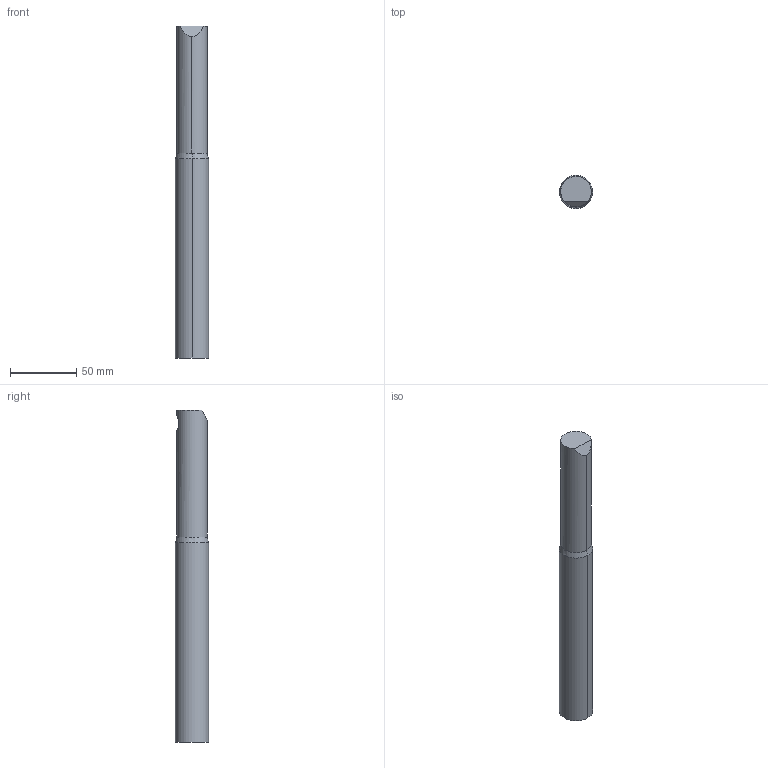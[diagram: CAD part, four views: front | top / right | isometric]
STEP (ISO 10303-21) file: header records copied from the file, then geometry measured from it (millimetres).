
FILE_DESCRIPTION( (''), '2;1');
FILE_NAME ('SY-2080-03_TH-25251-A.stp','2022-04-09T08:43:58',(''),(''),'spGate 18.9.3 (****-****-****-****)','','');
FILE_SCHEMA (('AUTOMOTIVE_DESIGN'));
Length unit declared in the file: millimetre
Products named in the file (2): Assembly; SY-2080-03_TH-25251-A-prt0
Assembly tree (1 placements, depth 2):
  Assembly
    SY-2080-03_TH-25251-A-prt0
Bounding box: 25 x 25 x 250 mm (x, y, z)
Volume: 96943.1 mm3; surface area: 27171.1 mm2
Topology: 1 solids, 1 shells, 24 faces, 54 edges, 31 vertices
Faces by surface type: bspline 12, cylinder 8, plane 4
Entity records: 1241 total; most frequent: CARTESIAN_POINT 341, ORIENTED_EDGE 100, DIRECTION 81, COLOUR_RGB 75, PRESENTATION_STYLE_ASSIGNMENT 75, STYLED_ITEM 75, EDGE_CURVE 50, DRAUGHTING_PRE_DEFINED_CURVE_FONT 50
